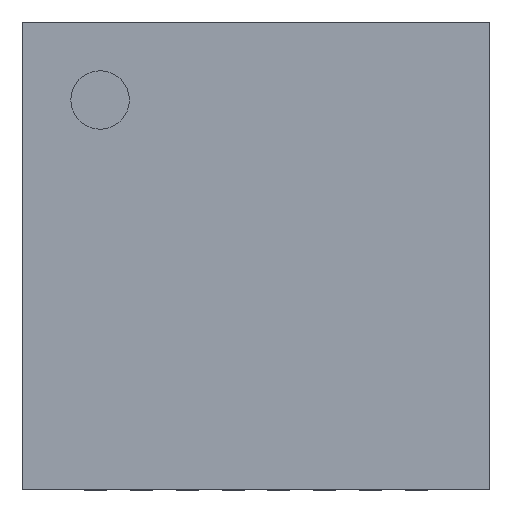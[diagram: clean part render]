
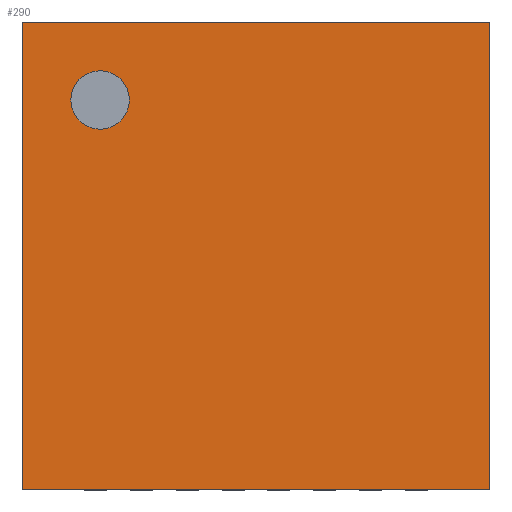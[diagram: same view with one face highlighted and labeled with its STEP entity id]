
A CAD part, top view. The second image highlights one B-rep face of the part: STEP entity #290.
In plain terms, the highlighted planar face has unit normal (0, 0, 1).
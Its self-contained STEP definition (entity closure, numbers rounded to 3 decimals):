
#226 = VERTEX_POINT('',#227);
#227 = CARTESIAN_POINT('',(0.,0.,0.6));
#242 = VERTEX_POINT('',#243);
#243 = CARTESIAN_POINT('',(0.,5.1,0.6));
#249 = EDGE_CURVE('',#226,#242,#250,.T.);
#250 = LINE('',#251,#252);
#251 = CARTESIAN_POINT('',(0.,0.,0.6));
#252 = VECTOR('',#253,1.);
#253 = DIRECTION('',(-0.,1.,0.));
#272 = EDGE_CURVE('',#226,#273,#275,.T.);
#273 = VERTEX_POINT('',#274);
#274 = CARTESIAN_POINT('',(5.1,0.,0.6));
#275 = LINE('',#276,#277);
#276 = CARTESIAN_POINT('',(0.,0.,0.6));
#277 = VECTOR('',#278,1.);
#278 = DIRECTION('',(1.,0.,-0.));
#290 = ADVANCED_FACE('',(#291,#309),#320,.T.);
#291 = FACE_BOUND('',#292,.T.);
#292 = EDGE_LOOP('',(#293,#294,#295,#303));
#293 = ORIENTED_EDGE('',*,*,#249,.F.);
#294 = ORIENTED_EDGE('',*,*,#272,.T.);
#295 = ORIENTED_EDGE('',*,*,#296,.T.);
#296 = EDGE_CURVE('',#273,#297,#299,.T.);
#297 = VERTEX_POINT('',#298);
#298 = CARTESIAN_POINT('',(5.1,5.1,0.6));
#299 = LINE('',#300,#301);
#300 = CARTESIAN_POINT('',(5.1,0.,0.6));
#301 = VECTOR('',#302,1.);
#302 = DIRECTION('',(-0.,1.,0.));
#303 = ORIENTED_EDGE('',*,*,#304,.F.);
#304 = EDGE_CURVE('',#242,#297,#305,.T.);
#305 = LINE('',#306,#307);
#306 = CARTESIAN_POINT('',(0.,5.1,0.6));
#307 = VECTOR('',#308,1.);
#308 = DIRECTION('',(1.,0.,-0.));
#309 = FACE_BOUND('',#310,.T.);
#310 = EDGE_LOOP('',(#311));
#311 = ORIENTED_EDGE('',*,*,#312,.F.);
#312 = EDGE_CURVE('',#313,#313,#315,.T.);
#313 = VERTEX_POINT('',#314);
#314 = CARTESIAN_POINT('',(1.169,4.25,0.6));
#315 = CIRCLE('',#316,0.319);
#316 = AXIS2_PLACEMENT_3D('',#317,#318,#319);
#317 = CARTESIAN_POINT('',(0.85,4.25,0.6));
#318 = DIRECTION('',(0.,0.,1.));
#319 = DIRECTION('',(1.,0.,-0.));
#320 = PLANE('',#321);
#321 = AXIS2_PLACEMENT_3D('',#322,#323,#324);
#322 = CARTESIAN_POINT('',(0.,0.,0.6));
#323 = DIRECTION('',(0.,0.,1.));
#324 = DIRECTION('',(1.,0.,-0.));
